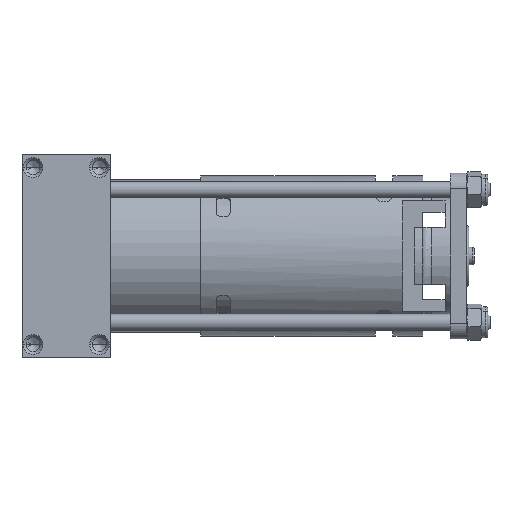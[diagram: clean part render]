
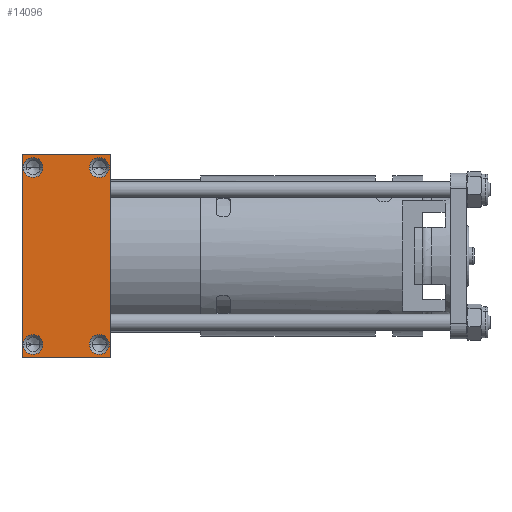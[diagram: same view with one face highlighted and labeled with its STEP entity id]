
A CAD part, front view. The second image highlights one B-rep face of the part: STEP entity #14096.
In plain terms, the highlighted planar face has unit normal (0, -1, 0).
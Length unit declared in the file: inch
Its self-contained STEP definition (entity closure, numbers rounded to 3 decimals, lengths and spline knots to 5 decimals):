
#13124 = CARTESIAN_POINT ( 'NONE',  ( -1., -1., 0.2625 ) ) ;
#13126 = DIRECTION ( 'NONE',  ( 0., 0., -1. ) ) ;
#13128 = DIRECTION ( 'NONE',  ( 0., -1., 0. ) ) ;
#13129 = CARTESIAN_POINT ( 'NONE',  ( -1., -1., 0.375 ) ) ;
#13131 = AXIS2_PLACEMENT_3D ( 'NONE', #13129, #13128, #13126 ) ;
#13135 = CIRCLE ( 'NONE', #13131, 0.1125 ) ;
#13281 = CARTESIAN_POINT ( 'NONE',  ( -1., -1., 0.4875 ) ) ;
#13352 = VERTEX_POINT ( 'NONE', #13281 ) ;
#13403 = EDGE_CURVE ( 'NONE', #13352, #13405, #13135, .T. ) ;
#13405 = VERTEX_POINT ( 'NONE', #13124 ) ;
#13569 = CARTESIAN_POINT ( 'NONE',  ( -1., -1., -0.4875 ) ) ;
#13570 = CARTESIAN_POINT ( 'NONE',  ( -1., -1., -0.2625 ) ) ;
#13791 = VERTEX_POINT ( 'NONE', #13570 ) ;
#13792 = VERTEX_POINT ( 'NONE', #13569 ) ;
#13816 = VERTEX_POINT ( 'NONE', #14482 ) ;
#13818 = EDGE_CURVE ( 'NONE', #13816, #13819, #14477, .T. ) ;
#13819 = VERTEX_POINT ( 'NONE', #14469 ) ;
#13880 = EDGE_CURVE ( 'NONE', #13791, #13792, #14365, .T. ) ;
#13890 = VERTEX_POINT ( 'NONE', #14599 ) ;
#13892 = EDGE_CURVE ( 'NONE', #13890, #13893, #14594, .T. ) ;
#13893 = VERTEX_POINT ( 'NONE', #14585 ) ;
#13940 = ORIENTED_EDGE ( 'NONE', *, *, #13941, .F. ) ;
#13941 = EDGE_CURVE ( 'NONE', #13819, #13816, #14870, .T. ) ;
#13942 = ORIENTED_EDGE ( 'NONE', *, *, #13818, .F. ) ;
#13943 = EDGE_LOOP ( 'NONE', ( #13944, #13946 ) ) ;
#13944 = ORIENTED_EDGE ( 'NONE', *, *, #13945, .F. ) ;
#13945 = EDGE_CURVE ( 'NONE', #13893, #13890, #15025, .T. ) ;
#13946 = ORIENTED_EDGE ( 'NONE', *, *, #13892, .F. ) ;
#13947 = EDGE_LOOP ( 'NONE', ( #13948, #13950 ) ) ;
#13948 = ORIENTED_EDGE ( 'NONE', *, *, #13949, .F. ) ;
#13949 = EDGE_CURVE ( 'NONE', #13792, #13791, #15012, .T. ) ;
#13950 = ORIENTED_EDGE ( 'NONE', *, *, #13880, .F. ) ;
#13951 = EDGE_LOOP ( 'NONE', ( #13952, #13969, #13972, #13974 ) ) ;
#13952 = ORIENTED_EDGE ( 'NONE', *, *, #13953, .T. ) ;
#13953 = EDGE_CURVE ( 'NONE', #14093, #13954, #15000, .T. ) ;
#13954 = VERTEX_POINT ( 'NONE', #14994 ) ;
#13967 = VERTEX_POINT ( 'NONE', #14935 ) ;
#13969 = ORIENTED_EDGE ( 'NONE', *, *, #13970, .F. ) ;
#13970 = EDGE_CURVE ( 'NONE', #13971, #13954, #15151, .T. ) ;
#13971 = VERTEX_POINT ( 'NONE', #15145 ) ;
#13972 = ORIENTED_EDGE ( 'NONE', *, *, #13973, .F. ) ;
#13973 = EDGE_CURVE ( 'NONE', #13967, #13971, #15141, .T. ) ;
#13974 = ORIENTED_EDGE ( 'NONE', *, *, #14095, .T. ) ;
#13980 = EDGE_CURVE ( 'NONE', #13405, #13352, #15105, .T. ) ;
#13981 = ORIENTED_EDGE ( 'NONE', *, *, #13403, .F. ) ;
#13982 = EDGE_LOOP ( 'NONE', ( #13940, #13942 ) ) ;
#14093 = VERTEX_POINT ( 'NONE', #15836 ) ;
#14095 = EDGE_CURVE ( 'NONE', #13967, #14093, #15831, .T. ) ;
#14096 = ADVANCED_FACE ( 'NONE', ( #15958, #15956, #15954, #15953, #15951 ), #15946, .F. ) ;
#14097 = EDGE_LOOP ( 'NONE', ( #14098, #13981 ) ) ;
#14098 = ORIENTED_EDGE ( 'NONE', *, *, #13980, .F. ) ;
#14358 = DIRECTION ( 'NONE',  ( 0., 0., -1. ) ) ;
#14360 = DIRECTION ( 'NONE',  ( 0., -1., 0. ) ) ;
#14361 = CARTESIAN_POINT ( 'NONE',  ( -1., -1., -0.375 ) ) ;
#14363 = AXIS2_PLACEMENT_3D ( 'NONE', #14361, #14360, #14358 ) ;
#14365 = CIRCLE ( 'NONE', #14363, 0.1125 ) ;
#14469 = CARTESIAN_POINT ( 'NONE',  ( 1., -1., 0.2625 ) ) ;
#14471 = DIRECTION ( 'NONE',  ( 0., 0., -1. ) ) ;
#14473 = DIRECTION ( 'NONE',  ( 0., -1., 0. ) ) ;
#14474 = CARTESIAN_POINT ( 'NONE',  ( 1., -1., 0.375 ) ) ;
#14475 = AXIS2_PLACEMENT_3D ( 'NONE', #14474, #14473, #14471 ) ;
#14477 = CIRCLE ( 'NONE', #14475, 0.1125 ) ;
#14482 = CARTESIAN_POINT ( 'NONE',  ( 1., -1., 0.4875 ) ) ;
#14585 = CARTESIAN_POINT ( 'NONE',  ( 1., -1., -0.4875 ) ) ;
#14587 = DIRECTION ( 'NONE',  ( 0., 0., -1. ) ) ;
#14589 = DIRECTION ( 'NONE',  ( 0., -1., 0. ) ) ;
#14591 = CARTESIAN_POINT ( 'NONE',  ( 1., -1., -0.375 ) ) ;
#14593 = AXIS2_PLACEMENT_3D ( 'NONE', #14591, #14589, #14587 ) ;
#14594 = CIRCLE ( 'NONE', #14593, 0.1125 ) ;
#14599 = CARTESIAN_POINT ( 'NONE',  ( 1., -1., -0.2625 ) ) ;
#14864 = DIRECTION ( 'NONE',  ( 0., 0., -1. ) ) ;
#14866 = DIRECTION ( 'NONE',  ( 0., -1., 0. ) ) ;
#14868 = CARTESIAN_POINT ( 'NONE',  ( 1., -1., 0.375 ) ) ;
#14869 = AXIS2_PLACEMENT_3D ( 'NONE', #14868, #14866, #14864 ) ;
#14870 = CIRCLE ( 'NONE', #14869, 0.1125 ) ;
#14935 = CARTESIAN_POINT ( 'NONE',  ( -1.15, -1., 0.5 ) ) ;
#14994 = CARTESIAN_POINT ( 'NONE',  ( 1.15, -1., -0.5 ) ) ;
#14996 = DIRECTION ( 'NONE',  ( 1., 0., 0. ) ) ;
#14997 = VECTOR ( 'NONE', #14996, 39.37008 ) ;
#14998 = CARTESIAN_POINT ( 'NONE',  ( -1.15, -1., -0.5 ) ) ;
#15000 = LINE ( 'NONE', #14998, #14997 ) ;
#15005 = DIRECTION ( 'NONE',  ( 0., 0., -1. ) ) ;
#15007 = DIRECTION ( 'NONE',  ( 0., -1., 0. ) ) ;
#15009 = CARTESIAN_POINT ( 'NONE',  ( -1., -1., -0.375 ) ) ;
#15010 = AXIS2_PLACEMENT_3D ( 'NONE', #15009, #15007, #15005 ) ;
#15012 = CIRCLE ( 'NONE', #15010, 0.1125 ) ;
#15018 = DIRECTION ( 'NONE',  ( 0., 0., -1. ) ) ;
#15020 = DIRECTION ( 'NONE',  ( 0., -1., 0. ) ) ;
#15022 = CARTESIAN_POINT ( 'NONE',  ( 1., -1., -0.375 ) ) ;
#15023 = AXIS2_PLACEMENT_3D ( 'NONE', #15022, #15020, #15018 ) ;
#15025 = CIRCLE ( 'NONE', #15023, 0.1125 ) ;
#15098 = DIRECTION ( 'NONE',  ( 0., 0., -1. ) ) ;
#15100 = DIRECTION ( 'NONE',  ( 0., -1., 0. ) ) ;
#15101 = CARTESIAN_POINT ( 'NONE',  ( -1., -1., 0.375 ) ) ;
#15103 = AXIS2_PLACEMENT_3D ( 'NONE', #15101, #15100, #15098 ) ;
#15105 = CIRCLE ( 'NONE', #15103, 0.1125 ) ;
#15136 = DIRECTION ( 'NONE',  ( 1., 0., 0. ) ) ;
#15138 = VECTOR ( 'NONE', #15136, 39.37008 ) ;
#15140 = CARTESIAN_POINT ( 'NONE',  ( -1.15, -1., 0.5 ) ) ;
#15141 = LINE ( 'NONE', #15140, #15138 ) ;
#15145 = CARTESIAN_POINT ( 'NONE',  ( 1.15, -1., 0.5 ) ) ;
#15147 = DIRECTION ( 'NONE',  ( 0., 0., -1. ) ) ;
#15148 = VECTOR ( 'NONE', #15147, 39.37008 ) ;
#15150 = CARTESIAN_POINT ( 'NONE',  ( 1.15, -1., 0.5 ) ) ;
#15151 = LINE ( 'NONE', #15150, #15148 ) ;
#15829 = CARTESIAN_POINT ( 'NONE',  ( -1.15, -1., 0.5 ) ) ;
#15831 = LINE ( 'NONE', #15829, #15961 ) ;
#15836 = CARTESIAN_POINT ( 'NONE',  ( -1.15, -1., -0.5 ) ) ;
#15939 = DIRECTION ( 'NONE',  ( -1., 0., 0. ) ) ;
#15941 = DIRECTION ( 'NONE',  ( 0., 1., 0. ) ) ;
#15943 = CARTESIAN_POINT ( 'NONE',  ( -1.15, -1., 0.5 ) ) ;
#15944 = AXIS2_PLACEMENT_3D ( 'NONE', #15943, #15941, #15939 ) ;
#15946 = PLANE ( 'NONE',  #15944 ) ;
#15951 = FACE_OUTER_BOUND ( 'NONE', #13951, .T. ) ;
#15953 = FACE_BOUND ( 'NONE', #13947, .T. ) ;
#15954 = FACE_BOUND ( 'NONE', #13943, .T. ) ;
#15956 = FACE_BOUND ( 'NONE', #13982, .T. ) ;
#15958 = FACE_BOUND ( 'NONE', #14097, .T. ) ;
#15960 = DIRECTION ( 'NONE',  ( 0., 0., -1. ) ) ;
#15961 = VECTOR ( 'NONE', #15960, 39.37008 ) ;
